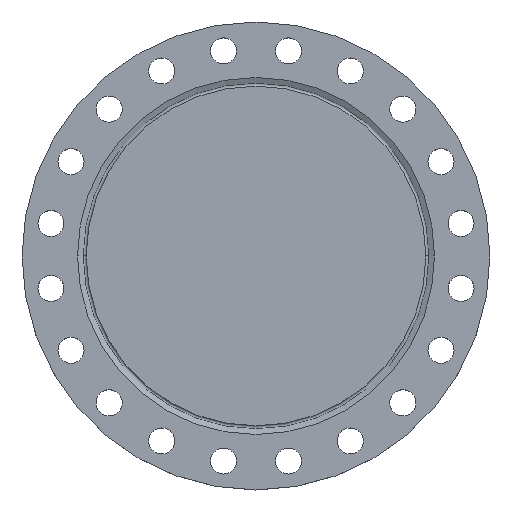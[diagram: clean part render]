
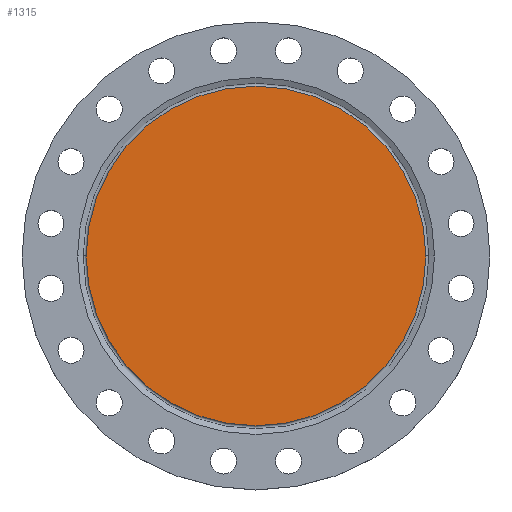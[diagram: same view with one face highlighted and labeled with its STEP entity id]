
A CAD part, top view. The second image highlights one B-rep face of the part: STEP entity #1315.
In plain terms, the highlighted planar face has unit normal (0, 0, 1).
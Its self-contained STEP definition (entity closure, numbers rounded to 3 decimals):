
#75 = CIRCLE ( 'NONE', #78, 274. ) ;
#78 = AXIS2_PLACEMENT_3D ( 'NONE', #1038, #1037, #1035 ) ;
#247 = AXIS2_PLACEMENT_3D ( 'NONE', #520, #519, #518 ) ;
#260 = EDGE_CURVE ( 'NONE', #1175, #1493, #75, .T. ) ;
#302 = EDGE_CURVE ( 'NONE', #1493, #1175, #810, .T. ) ;
#394 = CARTESIAN_POINT ( 'NONE',  ( -274., 0., 0. ) ) ;
#501 = AXIS2_PLACEMENT_3D ( 'NONE', #1024, #1022, #1021 ) ;
#518 = DIRECTION ( 'NONE',  ( 1., 0., 0. ) ) ;
#519 = DIRECTION ( 'NONE',  ( 0., 0., 1. ) ) ;
#520 = CARTESIAN_POINT ( 'NONE',  ( 0., 0., 0. ) ) ;
#521 = PLANE ( 'NONE',  #247 ) ;
#522 = FACE_OUTER_BOUND ( 'NONE', #1603, .T. ) ;
#611 = CARTESIAN_POINT ( 'NONE',  ( 274., 0., 0. ) ) ;
#810 = CIRCLE ( 'NONE', #501, 274. ) ;
#1021 = DIRECTION ( 'NONE',  ( -1., 0., 0. ) ) ;
#1022 = DIRECTION ( 'NONE',  ( 0., 0., -1. ) ) ;
#1024 = CARTESIAN_POINT ( 'NONE',  ( 0., 0., 0. ) ) ;
#1035 = DIRECTION ( 'NONE',  ( -1., 0., 0. ) ) ;
#1037 = DIRECTION ( 'NONE',  ( 0., 0., -1. ) ) ;
#1038 = CARTESIAN_POINT ( 'NONE',  ( 0., 0., 0. ) ) ;
#1175 = VERTEX_POINT ( 'NONE', #611 ) ;
#1315 = ADVANCED_FACE ( 'NONE', ( #522 ), #521, .T. ) ;
#1319 = ORIENTED_EDGE ( 'NONE', *, *, #260, .F. ) ;
#1320 = ORIENTED_EDGE ( 'NONE', *, *, #302, .F. ) ;
#1493 = VERTEX_POINT ( 'NONE', #394 ) ;
#1603 = EDGE_LOOP ( 'NONE', ( #1320, #1319 ) ) ;
